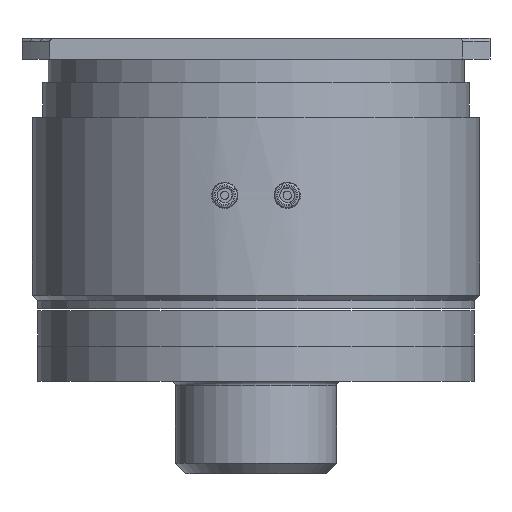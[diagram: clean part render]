
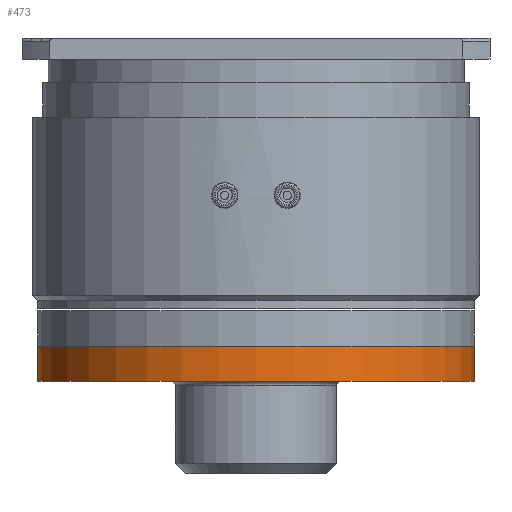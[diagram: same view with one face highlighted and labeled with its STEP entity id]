
A CAD part, front view. The second image highlights one B-rep face of the part: STEP entity #473.
In plain terms, the highlighted cylindrical face has radius 21 mm (diameter 42 mm), a partial arc.
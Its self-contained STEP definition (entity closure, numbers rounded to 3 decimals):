
#54 = CARTESIAN_POINT ( 'NONE',  ( 0., 0., 0.27 ) ) ;
#153 = VERTEX_POINT ( 'NONE', #7855 ) ;
#209 = CARTESIAN_POINT ( 'NONE',  ( 21., 0., 3.972 ) ) ;
#366 = VECTOR ( 'NONE', #4200, 1000. ) ;
#473 = ADVANCED_FACE ( 'NONE', ( #2007 ), #1463, .T. ) ;
#912 = VERTEX_POINT ( 'NONE', #6618 ) ;
#1251 = CARTESIAN_POINT ( 'NONE',  ( -21., 0., 3.972 ) ) ;
#1256 = EDGE_CURVE ( 'NONE', #6640, #5121, #5044, .T. ) ;
#1347 = AXIS2_PLACEMENT_3D ( 'NONE', #5328, #8094, #2088 ) ;
#1381 = VECTOR ( 'NONE', #3922, 1000. ) ;
#1413 = CARTESIAN_POINT ( 'NONE',  ( 21., 0., -3.13 ) ) ;
#1463 = CYLINDRICAL_SURFACE ( 'NONE', #1347, 21. ) ;
#1689 = ORIENTED_EDGE ( 'NONE', *, *, #1256, .T. ) ;
#1828 = EDGE_CURVE ( 'NONE', #6640, #153, #7244, .T. ) ;
#2007 = FACE_OUTER_BOUND ( 'NONE', #4230, .T. ) ;
#2088 = DIRECTION ( 'NONE',  ( 1., 0., 0. ) ) ;
#2234 = AXIS2_PLACEMENT_3D ( 'NONE', #54, #5343, #8026 ) ;
#2815 = AXIS2_PLACEMENT_3D ( 'NONE', #4418, #7212, #7926 ) ;
#3677 = LINE ( 'NONE', #209, #366 ) ;
#3708 = ORIENTED_EDGE ( 'NONE', *, *, #7941, .F. ) ;
#3845 = ORIENTED_EDGE ( 'NONE', *, *, #1828, .F. ) ;
#3922 = DIRECTION ( 'NONE',  ( 0., 0., 1. ) ) ;
#4200 = DIRECTION ( 'NONE',  ( 0., 0., 1. ) ) ;
#4230 = EDGE_LOOP ( 'NONE', ( #3845, #1689, #7633, #3708 ) ) ;
#4418 = CARTESIAN_POINT ( 'NONE',  ( 0., 0., -3.13 ) ) ;
#5044 = CIRCLE ( 'NONE', #2815, 21. ) ;
#5121 = VERTEX_POINT ( 'NONE', #1413 ) ;
#5328 = CARTESIAN_POINT ( 'NONE',  ( 0., 0., 3.972 ) ) ;
#5343 = DIRECTION ( 'NONE',  ( 0., 0., 1. ) ) ;
#6579 = EDGE_CURVE ( 'NONE', #5121, #912, #3677, .T. ) ;
#6618 = CARTESIAN_POINT ( 'NONE',  ( 21., 0., 0.27 ) ) ;
#6640 = VERTEX_POINT ( 'NONE', #8493 ) ;
#7212 = DIRECTION ( 'NONE',  ( 0., 0., 1. ) ) ;
#7244 = LINE ( 'NONE', #1251, #1381 ) ;
#7633 = ORIENTED_EDGE ( 'NONE', *, *, #6579, .T. ) ;
#7837 = CIRCLE ( 'NONE', #2234, 21. ) ;
#7855 = CARTESIAN_POINT ( 'NONE',  ( -21., 0., 0.27 ) ) ;
#7926 = DIRECTION ( 'NONE',  ( 1., 0., 0. ) ) ;
#7941 = EDGE_CURVE ( 'NONE', #153, #912, #7837, .T. ) ;
#8026 = DIRECTION ( 'NONE',  ( 1., 0., 0. ) ) ;
#8094 = DIRECTION ( 'NONE',  ( 0., 0., 1. ) ) ;
#8493 = CARTESIAN_POINT ( 'NONE',  ( -21., 0., -3.13 ) ) ;
